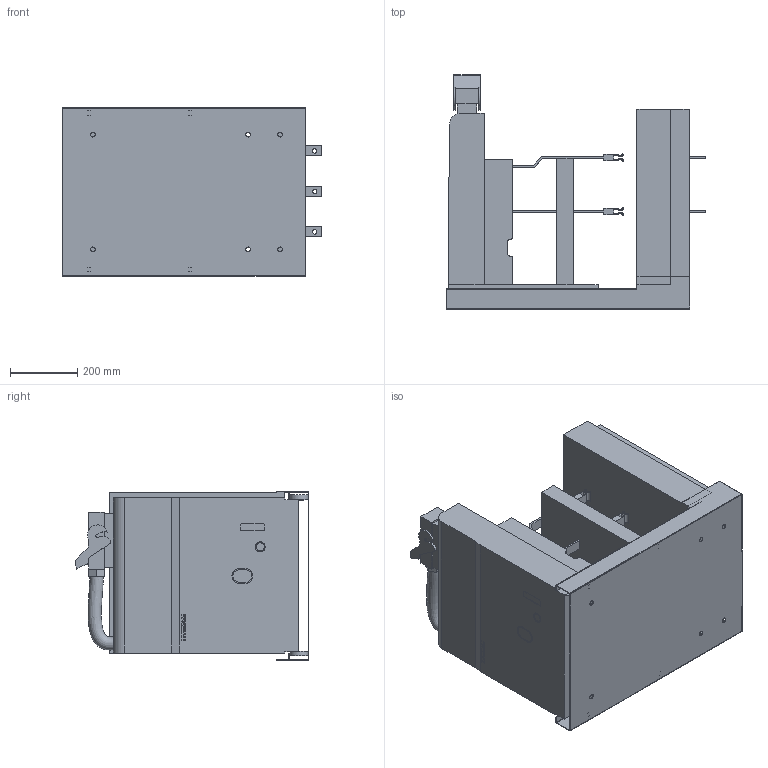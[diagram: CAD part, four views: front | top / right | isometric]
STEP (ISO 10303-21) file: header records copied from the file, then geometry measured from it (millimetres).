
FILE_DESCRIPTION(('STEP AP203'), '1');
FILE_NAME('Âûäâèæíîå èñïîëíåíèå 3,6_7,2êÂ, êîðçèíà êëàññà E_F (B2)', '', ('UNSPECIFIED'), ('UNSPECIFIED'), 'ASCON STEP Converter 1.3', 'ASCON Math Kernel', '');
FILE_SCHEMA(('CONFIG_CONTROL_DESIGN'));
Length unit declared in the file: millimetre
Bounding box: 767.57 x 693.06 x 500.01 mm (x, y, z)
Volume: 92464710 mm3; surface area: 3531386 mm2
Topology: 2 solids, 2 shells, 443 faces, 1215 edges, 796 vertices
Faces by surface type: plane 336, cylinder 80, extrusion 26, bspline 1
Full cylindrical faces by diameter (mm): 13 x6, 14 x6, 24 x1, 30 x1, 54 x4
Entity records: 19391 total; most frequent: CARTESIAN_POINT 4479, ORIENTED_EDGE 2390, DIRECTION 2186, EDGE_CURVE 1195, VECTOR 986, LINE 960, VERTEX_POINT 794, AXIS2_PLACEMENT_3D 600
